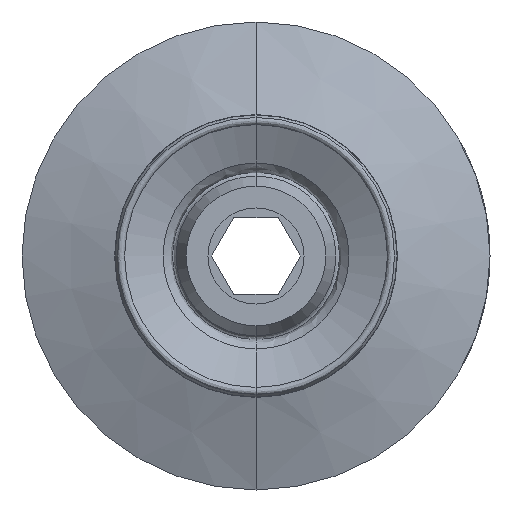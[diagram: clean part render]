
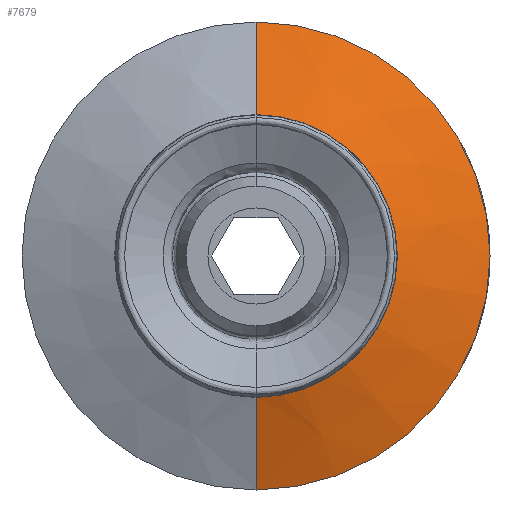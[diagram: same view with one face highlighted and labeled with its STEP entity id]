
A CAD part, front view. The second image highlights one B-rep face of the part: STEP entity #7679.
In plain terms, the highlighted conical face has half-angle 70 degrees and reference radius 18.25 mm.
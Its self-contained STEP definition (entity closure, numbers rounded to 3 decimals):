
#43 = ORIENTED_EDGE ( 'NONE', *, *, #8944, .F. ) ;
#1187 = VECTOR ( 'NONE', #7966, 1000. ) ;
#1971 = AXIS2_PLACEMENT_3D ( 'NONE', #2664, #4274, #9654 ) ;
#2164 = CARTESIAN_POINT ( 'NONE',  ( 0., -9.128, 11.029 ) ) ;
#2502 = LINE ( 'NONE', #6391, #6443 ) ;
#2664 = CARTESIAN_POINT ( 'NONE',  ( 0., -6.5, 0. ) ) ;
#2721 = VERTEX_POINT ( 'NONE', #9993 ) ;
#2854 = EDGE_LOOP ( 'NONE', ( #3408, #4990, #3625, #43 ) ) ;
#3015 = EDGE_CURVE ( 'NONE', #2721, #8738, #7863, .T. ) ;
#3111 = CARTESIAN_POINT ( 'NONE',  ( 0., -6.5, -18.25 ) ) ;
#3191 = VERTEX_POINT ( 'NONE', #2164 ) ;
#3281 = AXIS2_PLACEMENT_3D ( 'NONE', #5294, #8483, #4508 ) ;
#3408 = ORIENTED_EDGE ( 'NONE', *, *, #8309, .T. ) ;
#3625 = ORIENTED_EDGE ( 'NONE', *, *, #8251, .F. ) ;
#3829 = DIRECTION ( 'NONE',  ( -1., 0., 0. ) ) ;
#3954 = CARTESIAN_POINT ( 'NONE',  ( 0., -6.5, -18.25 ) ) ;
#4274 = DIRECTION ( 'NONE',  ( 0., 1., 0. ) ) ;
#4508 = DIRECTION ( 'NONE',  ( 0., 0., 1. ) ) ;
#4990 = ORIENTED_EDGE ( 'NONE', *, *, #3015, .T. ) ;
#5294 = CARTESIAN_POINT ( 'NONE',  ( 0., -6.5, 0. ) ) ;
#5871 = CARTESIAN_POINT ( 'NONE',  ( 0., -6.5, 18.25 ) ) ;
#6391 = CARTESIAN_POINT ( 'NONE',  ( 0., -6.5, 18.25 ) ) ;
#6440 = CONICAL_SURFACE ( 'NONE', #1971, 18.25, 1.222 ) ;
#6443 = VECTOR ( 'NONE', #7058, 1000. ) ;
#6919 = CIRCLE ( 'NONE', #7749, 11.029 ) ;
#7058 = DIRECTION ( 'NONE',  ( 0., 0.342, 0.94 ) ) ;
#7679 = ADVANCED_FACE ( 'NONE', ( #8932 ), #6440, .T. ) ;
#7749 = AXIS2_PLACEMENT_3D ( 'NONE', #10056, #9950, #3829 ) ;
#7863 = LINE ( 'NONE', #3111, #1187 ) ;
#7966 = DIRECTION ( 'NONE',  ( 0., 0.342, -0.94 ) ) ;
#8251 = EDGE_CURVE ( 'NONE', #9100, #8738, #9764, .T. ) ;
#8309 = EDGE_CURVE ( 'NONE', #3191, #2721, #6919, .T. ) ;
#8483 = DIRECTION ( 'NONE',  ( 0., 1., 0. ) ) ;
#8738 = VERTEX_POINT ( 'NONE', #3954 ) ;
#8932 = FACE_OUTER_BOUND ( 'NONE', #2854, .T. ) ;
#8944 = EDGE_CURVE ( 'NONE', #3191, #9100, #2502, .T. ) ;
#9100 = VERTEX_POINT ( 'NONE', #5871 ) ;
#9654 = DIRECTION ( 'NONE',  ( 0., 0., 1. ) ) ;
#9764 = CIRCLE ( 'NONE', #3281, 18.25 ) ;
#9950 = DIRECTION ( 'NONE',  ( 0., 1., 0. ) ) ;
#9993 = CARTESIAN_POINT ( 'NONE',  ( 0., -9.128, -11.029 ) ) ;
#10056 = CARTESIAN_POINT ( 'NONE',  ( 0., -9.128, 0. ) ) ;
